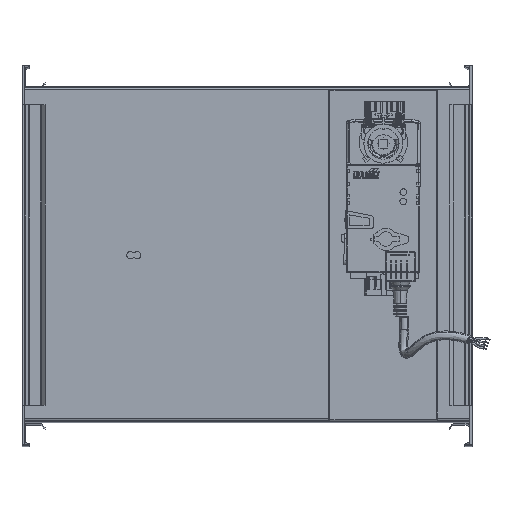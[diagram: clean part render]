
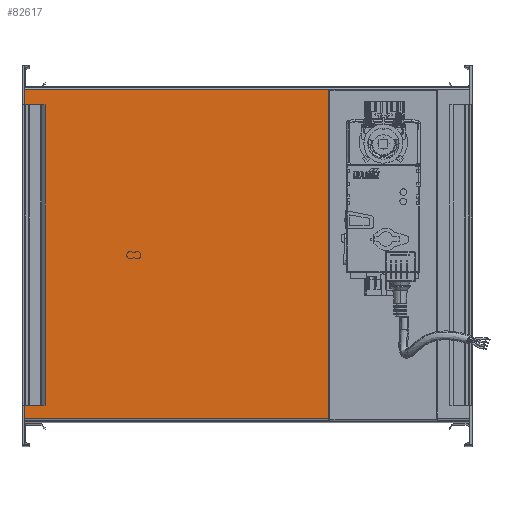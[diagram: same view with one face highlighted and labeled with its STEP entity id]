
A CAD part, top view. The second image highlights one B-rep face of the part: STEP entity #82617.
In plain terms, the highlighted planar face has unit normal (0, 0, 1).
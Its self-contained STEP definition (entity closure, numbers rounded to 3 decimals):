
#851 = DIRECTION ( 'NONE',  ( 1., 0., 0. ) ) ;
#4004 = ORIENTED_EDGE ( 'NONE', *, *, #5050, .F. ) ;
#5050 = EDGE_CURVE ( 'NONE', #89766, #62422, #57529, .T. ) ;
#9123 = CARTESIAN_POINT ( 'NONE',  ( 28.911, -135.848, 1550. ) ) ;
#19865 = LINE ( 'NONE', #90471, #43732 ) ;
#20202 = DIRECTION ( 'NONE',  ( 1., 0., 0. ) ) ;
#26265 = PLANE ( 'NONE',  #61386 ) ;
#29962 = EDGE_CURVE ( 'NONE', #62422, #66257, #30583, .T. ) ;
#30583 = LINE ( 'NONE', #9123, #81506 ) ;
#35467 = ORIENTED_EDGE ( 'NONE', *, *, #62362, .T. ) ;
#43732 = VECTOR ( 'NONE', #84347, 1000. ) ;
#45947 = ORIENTED_EDGE ( 'NONE', *, *, #59371, .T. ) ;
#47432 = CARTESIAN_POINT ( 'NONE',  ( 28.911, 162.152, 1550. ) ) ;
#52176 = VERTEX_POINT ( 'NONE', #80056 ) ;
#53161 = CARTESIAN_POINT ( 'NONE',  ( -244.423, 162.152, 1550. ) ) ;
#55734 = CARTESIAN_POINT ( 'NONE',  ( -244.423, -133.848, 1550. ) ) ;
#57529 = LINE ( 'NONE', #84204, #85892 ) ;
#59251 = LINE ( 'NONE', #79366, #76478 ) ;
#59371 = EDGE_CURVE ( 'NONE', #52176, #66257, #59251, .T. ) ;
#61386 = AXIS2_PLACEMENT_3D ( 'NONE', #55734, #69286, #20202 ) ;
#62362 = EDGE_CURVE ( 'NONE', #89766, #52176, #19865, .T. ) ;
#62422 = VERTEX_POINT ( 'NONE', #47432 ) ;
#62877 = ORIENTED_EDGE ( 'NONE', *, *, #29962, .F. ) ;
#66257 = VERTEX_POINT ( 'NONE', #87892 ) ;
#68817 = FACE_OUTER_BOUND ( 'NONE', #84065, .T. ) ;
#69286 = DIRECTION ( 'NONE',  ( 0., 0., 1. ) ) ;
#76478 = VECTOR ( 'NONE', #851, 1000. ) ;
#78083 = DIRECTION ( 'NONE',  ( 1., 0., 0. ) ) ;
#79366 = CARTESIAN_POINT ( 'NONE',  ( -244.423, -133.848, 1550. ) ) ;
#80056 = CARTESIAN_POINT ( 'NONE',  ( -244.423, -133.848, 1550. ) ) ;
#81506 = VECTOR ( 'NONE', #87204, 1000. ) ;
#82617 = ADVANCED_FACE ( 'NONE', ( #68817 ), #26265, .T. ) ;
#84065 = EDGE_LOOP ( 'NONE', ( #45947, #62877, #4004, #35467 ) ) ;
#84204 = CARTESIAN_POINT ( 'NONE',  ( -244.423, 162.152, 1550. ) ) ;
#84347 = DIRECTION ( 'NONE',  ( 0., -1., 0. ) ) ;
#85892 = VECTOR ( 'NONE', #78083, 1000. ) ;
#87204 = DIRECTION ( 'NONE',  ( 0., -1., 0. ) ) ;
#87892 = CARTESIAN_POINT ( 'NONE',  ( 28.911, -133.848, 1550. ) ) ;
#89766 = VERTEX_POINT ( 'NONE', #53161 ) ;
#90471 = CARTESIAN_POINT ( 'NONE',  ( -244.423, -133.848, 1550. ) ) ;
